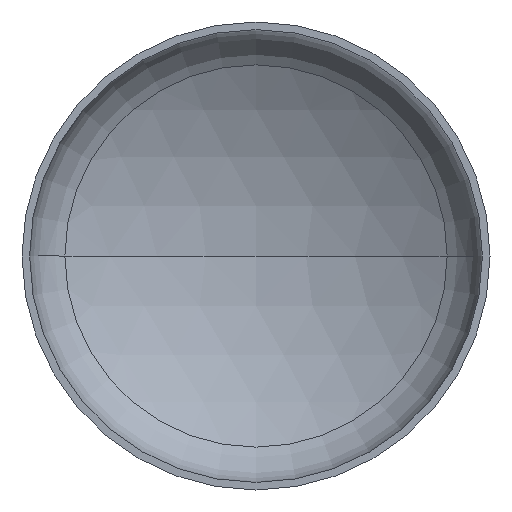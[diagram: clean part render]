
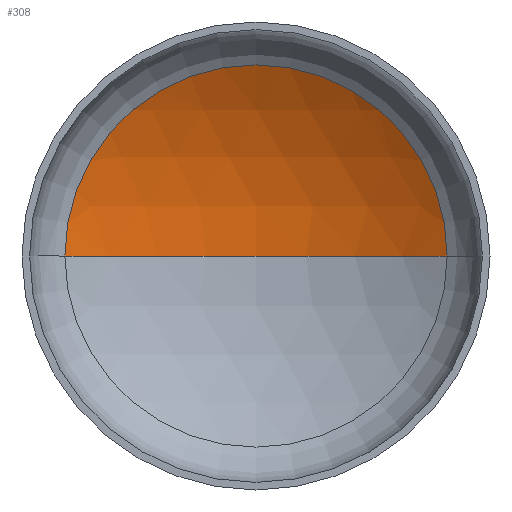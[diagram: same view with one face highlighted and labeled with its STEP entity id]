
A CAD part, front view. The second image highlights one B-rep face of the part: STEP entity #308.
In plain terms, the highlighted spherical face has radius 5200 mm.
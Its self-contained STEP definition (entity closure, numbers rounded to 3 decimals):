
#2 = AXIS2_PLACEMENT_3D ( 'NONE', #397, #395, #369 ) ;
#7 = AXIS2_PLACEMENT_3D ( 'NONE', #372, #387, #155 ) ;
#9 = CIRCLE ( 'NONE', #13, 2654.476 ) ;
#13 = AXIS2_PLACEMENT_3D ( 'NONE', #246, #218, #217 ) ;
#53 = EDGE_CURVE ( 'NONE', #103, #185, #9, .T. ) ;
#57 = EDGE_CURVE ( 'NONE', #76, #103, #220, .T. ) ;
#63 = CARTESIAN_POINT ( 'NONE',  ( -2654.476, 934.892, 0. ) ) ;
#64 = EDGE_CURVE ( 'NONE', #76, #185, #287, .T. ) ;
#76 = VERTEX_POINT ( 'NONE', #339 ) ;
#89 = EDGE_LOOP ( 'NONE', ( #376, #148, #101 ) ) ;
#101 = ORIENTED_EDGE ( 'NONE', *, *, #53, .T. ) ;
#103 = VERTEX_POINT ( 'NONE', #211 ) ;
#148 = ORIENTED_EDGE ( 'NONE', *, *, #57, .T. ) ;
#155 = DIRECTION ( 'NONE',  ( -1., 0., 0. ) ) ;
#185 = VERTEX_POINT ( 'NONE', #63 ) ;
#190 = FACE_OUTER_BOUND ( 'NONE', #89, .T. ) ;
#211 = CARTESIAN_POINT ( 'NONE',  ( 2654.476, 934.892, 0. ) ) ;
#217 = DIRECTION ( 'NONE',  ( 1., 0., 0. ) ) ;
#218 = DIRECTION ( 'NONE',  ( 0., -1., 0. ) ) ;
#220 = CIRCLE ( 'NONE', #7, 5200. ) ;
#237 = AXIS2_PLACEMENT_3D ( 'NONE', #307, #368, #321 ) ;
#246 = CARTESIAN_POINT ( 'NONE',  ( 0., 934.892, 0. ) ) ;
#287 = CIRCLE ( 'NONE', #2, 5200. ) ;
#307 = CARTESIAN_POINT ( 'NONE',  ( 0., -3536.546, 0. ) ) ;
#308 = ADVANCED_FACE ( 'NONE', ( #190 ), #319, .F. ) ;
#319 = SPHERICAL_SURFACE ( 'NONE', #237, 5200. ) ;
#321 = DIRECTION ( 'NONE',  ( -1., 0., 0. ) ) ;
#339 = CARTESIAN_POINT ( 'NONE',  ( 0., 1663.454, 0. ) ) ;
#368 = DIRECTION ( 'NONE',  ( 0., 0., -1. ) ) ;
#369 = DIRECTION ( 'NONE',  ( 1., 0., 0. ) ) ;
#372 = CARTESIAN_POINT ( 'NONE',  ( 0., -3536.546, 0. ) ) ;
#376 = ORIENTED_EDGE ( 'NONE', *, *, #64, .F. ) ;
#387 = DIRECTION ( 'NONE',  ( 0., 0., -1. ) ) ;
#395 = DIRECTION ( 'NONE',  ( 0., 0., 1. ) ) ;
#397 = CARTESIAN_POINT ( 'NONE',  ( 0., -3536.546, 0. ) ) ;
